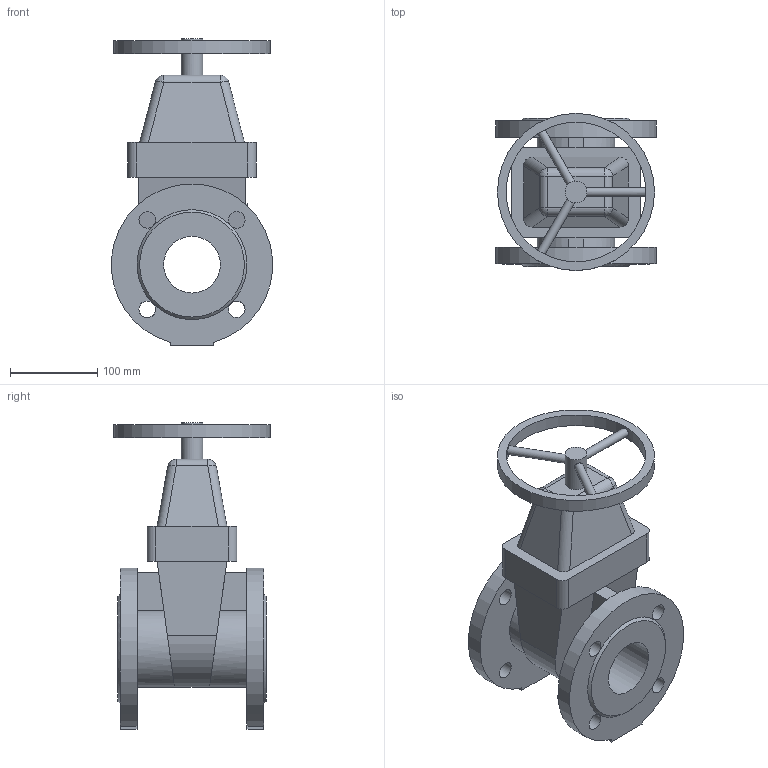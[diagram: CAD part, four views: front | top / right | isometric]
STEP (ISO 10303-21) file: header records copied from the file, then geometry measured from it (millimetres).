
FILE_DESCRIPTION(('STEP AP203'), '1');
FILE_NAME('Çàäâèæêà 47GV DN65 PN10_PN16_L170_W180 ñ ìàõîâèêîì', '', ('UNSPECIFIED'), ('UNSPECIFIED'), 'ASCON STEP Converter 1.6', 'ASCON Math Kernel', '');
FILE_SCHEMA(('CONFIG_CONTROL_DESIGN'));
Length unit declared in the file: millimetre
Bounding box: 184.4 x 180 x 351.5 mm (x, y, z)
Volume: 3216843.7 mm3; surface area: 308656.2 mm2
Topology: 1 solids, 1 shells, 93 faces, 245 edges, 153 vertices
Faces by surface type: plane 47, cylinder 40, bspline 4, cone 2
Full cylindrical faces by diameter (mm): 10 x3, 19 x8, 25 x1, 65 x1, 160 x1, 180 x1
Entity records: 4352 total; most frequent: CARTESIAN_POINT 1416, DIRECTION 436, ORIENTED_EDGE 412, EDGE_CURVE 206, AXIS2_PLACEMENT_3D 158, EDGE_LOOP 146, VERTEX_POINT 144, LINE 120
